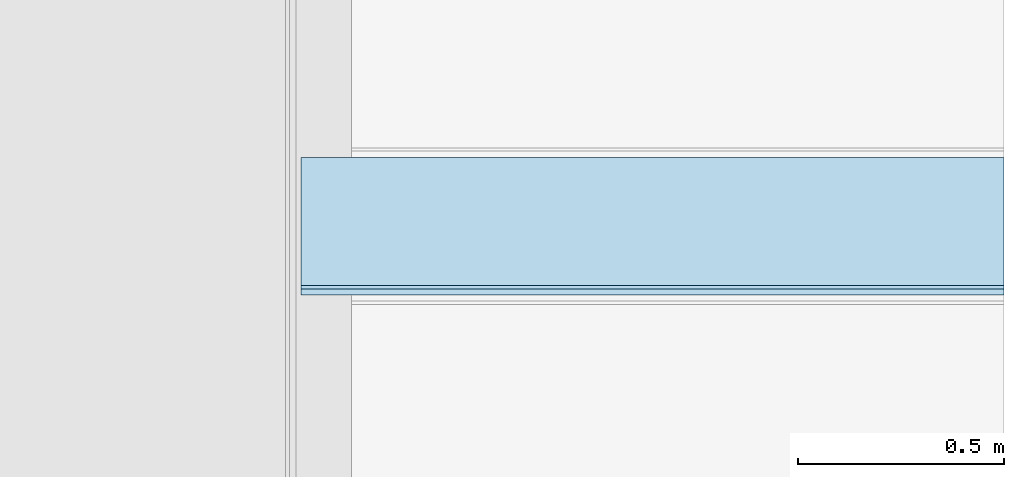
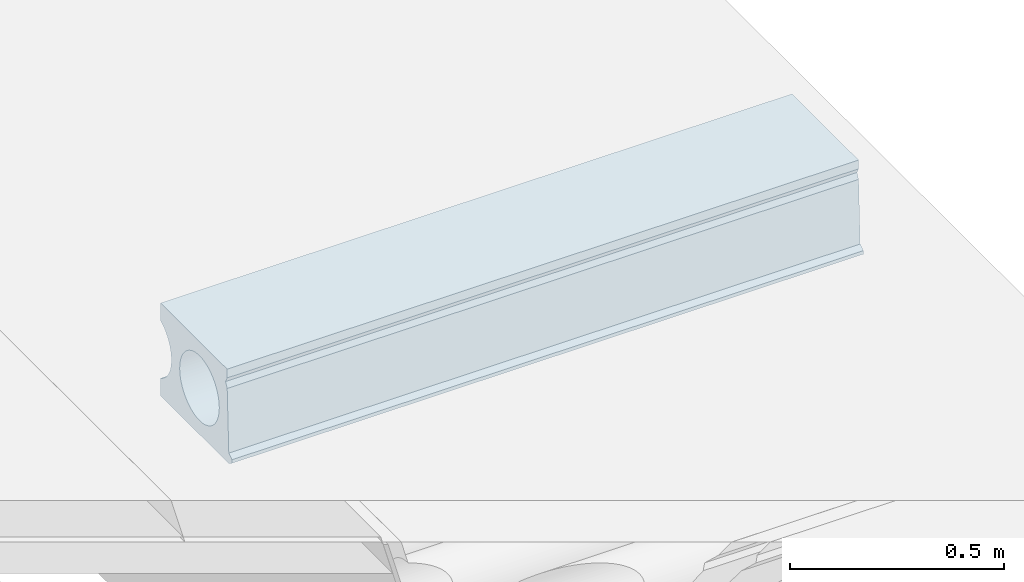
# One storey, part 17 of 21: 1 slab.
"""IFC2X3 building model written with IfcOpenShell, lengths in millimetres."""

from ifc_helpers import new_model, entity, si_unit, converted_unit, derived_unit, direction, frame, origin_with_axes, place, context, subcontext, project, spatial, faceted_brep, type_object, element, save


model = new_model("IFC2X3")

# Units and contexts
model_context = context("Model", 3, precision=0.01, world=frame((0.0, 4.29681676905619e-09, 0.0)), true_north=direction((4.01073788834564e-13, 1.0)))
plan_context = context("Plan", 3, precision=0.01, world=frame((0.0, 4.29681676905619e-09, 0.0)), true_north=direction((4.01073788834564e-13, 1.0)))
body_context = subcontext(model_context, "Body", "Model", "MODEL_VIEW")
ifc_project = project(units=[converted_unit("PLANEANGLEUNIT", "DEGREE", entity("IfcPositiveLengthMeasure", 0.0174532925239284), si_unit("PLANEANGLEUNIT", "RADIAN"), dimensions=[0, 0, 0, 0, 0, 0, 0]), si_unit("AREAUNIT", "SQUARE_METRE"), si_unit("LENGTHUNIT", "METRE", prefix="MILLI"), si_unit("MASSUNIT", "GRAM", prefix="KILO"), si_unit("POWERUNIT", "WATT"), si_unit("PRESSUREUNIT", "PASCAL", prefix="KILO"), si_unit("FORCEUNIT", "NEWTON", prefix="KILO"), si_unit("ELECTRICVOLTAGEUNIT", "VOLT"), si_unit("ELECTRICCURRENTUNIT", "AMPERE"), si_unit("THERMODYNAMICTEMPERATUREUNIT", "DEGREE_CELSIUS"), si_unit("TIMEUNIT", "SECOND"), si_unit("VOLUMEUNIT", "CUBIC_METRE"), derived_unit("LINEARVELOCITYUNIT", [(si_unit("LENGTHUNIT", "METRE"), 1), (si_unit("TIMEUNIT", "SECOND"), -1)]), derived_unit("VOLUMETRICFLOWRATEUNIT", [(si_unit("VOLUMEUNIT", "CUBIC_METRE"), 1), (si_unit("TIMEUNIT", "SECOND"), -1)]), derived_unit("THERMALTRANSMITTANCEUNIT", [(si_unit("POWERUNIT", "WATT"), 1), (si_unit("THERMODYNAMICTEMPERATUREUNIT", "KELVIN"), -1), (si_unit("AREAUNIT", "SQUARE_METRE"), -1)]), derived_unit("SOUNDPRESSUREUNIT", [(si_unit("PRESSUREUNIT", "PASCAL"), 1)])], contexts=[model_context, plan_context])

# Site, building, storey
site_placement = place(None, frame((0.0, -4.29681676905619e-09, 0.0), z_axis=(0.0, 0.0, 1.0), x_axis=(1.0, 0.0, 0.0)))
site = spatial("IfcSite", under=ifc_project, at=site_placement, Name="Gardermoen", CompositionType="ELEMENT")
building_placement = place(site_placement, frame((0.0, 4.29681676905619e-09, 0.0), z_axis=(0.0, 0.0, 1.0), x_axis=(1.0, 0.0, 0.0)))
building = spatial("IfcBuilding", under=site, at=building_placement, Name="TS", CompositionType="ELEMENT")
storey_placement = place(building_placement, origin_with_axes())
storey = spatial("IfcBuildingStorey", under=building, at=storey_placement, Name="F", CompositionType="ELEMENT", Elevation=0.0)

# Slab
slab_type = type_object("IfcSlabType", Name="HD265", PredefinedType="NOTDEFINED")
slab_placement = place(storey_placement, frame((727438.0, 437566.000038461, 210662.5), z_axis=(0.0, 0.0, 1.0), x_axis=(1.0, 0.0, 0.0)))
element("IfcSlab", 1, at=slab_placement, inside=storey, type_object=slab_type, Name="HULLDEKKE", ObjectType="HD265", PredefinedType="FLOOR", context=body_context, shape_type="Brep", body=[
    faceted_brep([(1704.58978646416, -268.025133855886, 81.3513219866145), (1704.58978646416, -266.000607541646, 82.3410525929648), (0.0, -266.000607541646, 82.3410525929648), (0.0, -268.025133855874, 81.3513219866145), (1704.58978646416, -274.59270462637, 77.437899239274), (0.0, -274.592704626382, 77.437899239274), (1704.58978646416, -280.814675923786, 72.9954971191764), (0.0, -280.814675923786, 72.9954971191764), (1704.58978646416, -286.648545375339, 68.0544617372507), (0.0, -286.648545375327, 68.0544617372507), (1704.58978646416, -292.05446173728, 62.6485453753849), (0.0, -292.05446173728, 62.6485453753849), (1704.58978646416, -296.995497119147, 56.8146759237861), (0.0, -296.995497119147, 56.8146759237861), (1704.58978646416, -301.437899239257, 50.5927046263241), (0.0, -301.437899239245, 50.5927046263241), (1704.58978646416, -305.351321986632, 44.0251338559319), (0.0, -305.351321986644, 44.0251338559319), (1704.58978646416, -308.709032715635, 37.1568267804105), (0.0, -308.709032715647, 37.1568267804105), (1704.58978646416, -311.488094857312, 30.0347009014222), (0.0, -311.488094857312, 30.0347009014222), (1704.58978646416, -313.669524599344, 22.7074075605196), (0.0, -313.669524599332, 22.7074075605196), (1704.58978646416, -315.238420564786, 15.2249996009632), (0.0, -315.238420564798, 15.2249996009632), (1704.58978646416, -316.184065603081, 7.63858945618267), (0.0, -316.184065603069, 7.63858945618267), (1704.58978646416, -316.5, 0.0), (0.0, -316.5, 0.0), (1704.58978646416, -316.184065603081, -7.63858945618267), (0.0, -316.184065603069, -7.63858945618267), (1704.58978646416, -315.238420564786, -15.2249996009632), (0.0, -315.238420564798, -15.2249996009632), (1704.58978646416, -313.669524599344, -22.7074075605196), (0.0, -313.669524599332, -22.7074075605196), (1704.58978646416, -311.488094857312, -30.0347009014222), (0.0, -311.488094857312, -30.0347009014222), (1704.58978646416, -308.709032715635, -37.1568267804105), (0.0, -308.709032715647, -37.1568267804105), (1704.58978646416, -305.351321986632, -44.0251338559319), (0.0, -305.351321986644, -44.0251338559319), (1704.58978646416, -301.437899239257, -50.5927046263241), (0.0, -301.437899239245, -50.5927046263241), (1704.58978646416, -296.995497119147, -56.8146759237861), (0.0, -296.995497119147, -56.8146759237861), (1704.58978646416, -292.05446173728, -62.6485453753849), (0.0, -292.05446173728, -62.6485453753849), (1704.58978646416, -286.648545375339, -68.0544617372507), (0.0, -286.648545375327, -68.0544617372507), (1704.58978646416, -280.814675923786, -72.9954971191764), (0.0, -280.814675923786, -72.9954971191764), (1704.58978646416, -274.59270462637, -77.437899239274), (0.0, -274.592704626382, -77.437899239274), (1704.58978646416, -268.025133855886, -81.3513219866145), (0.0, -268.025133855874, -81.3513219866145), (1704.58978646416, -266.000607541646, -82.3410525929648), (0.0, -266.000607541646, -82.3410525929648), (1704.58978646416, -266.000607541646, -132.5), (0.0, -266.000607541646, -132.5), (1704.58978646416, -583.380004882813, -132.5), (0.0, -583.380004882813, -132.5), (1704.58978646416, -600.0, -122.5), (0.0, -600.0, -122.5), (1704.58978646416, -600.0, -112.5), (0.0, -600.0, -112.5), (1704.58978646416, -585.0, -102.5), (0.0, -585.0, -102.5), (1704.58978646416, -577.5, 77.5), (0.0, -577.5, 77.5), (1704.58978646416, -570.0, 92.5), (0.0, -570.0, 92.5), (1704.58978646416, -577.5, 107.5), (0.0, -577.5, 107.5), (1704.58978646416, -577.5, 132.5), (0.0, -577.5, 132.5), (1704.58978646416, -266.000607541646, 132.5), (0.0, -266.000607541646, 132.5), (0.0, -448.0, -92.5), (0.0, -455.638589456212, -92.1840656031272), (0.0, -463.224999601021, -91.2384205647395), (0.0, -470.707407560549, -89.6695245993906), (0.0, -478.03470090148, -87.4880948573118), (0.0, -485.15682678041, -84.7090327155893), (0.0, -492.025133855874, -81.3513219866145), (0.0, -498.592704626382, -77.437899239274), (0.0, -504.814675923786, -72.9954971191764), (0.0, -510.648545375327, -68.0544617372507), (0.0, -516.05446173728, -62.6485453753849), (0.0, -520.995497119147, -56.8146759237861), (0.0, -525.437899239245, -50.5927046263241), (0.0, -529.351321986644, -44.0251338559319), (0.0, -532.709032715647, -37.1568267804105), (0.0, -535.488094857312, -30.0347009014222), (0.0, -537.669524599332, -22.7074075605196), (0.0, -539.238420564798, -15.2249996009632), (0.0, -540.184065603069, -7.63858945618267), (0.0, -540.5, 0.0), (0.0, -540.184065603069, 7.63858945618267), (0.0, -539.238420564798, 15.2249996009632), (0.0, -537.669524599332, 22.7074075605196), (0.0, -535.488094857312, 30.0347009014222), (0.0, -532.709032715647, 37.1568267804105), (0.0, -529.351321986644, 44.0251338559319), (0.0, -525.437899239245, 50.5927046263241), (0.0, -520.995497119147, 56.8146759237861), (0.0, -516.05446173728, 62.6485453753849), (0.0, -510.648545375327, 68.0544617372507), (0.0, -504.814675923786, 72.9954971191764), (0.0, -498.592704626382, 77.437899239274), (0.0, -492.025133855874, 81.3513219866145), (0.0, -485.15682678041, 84.7090327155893), (0.0, -478.03470090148, 87.4880948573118), (0.0, -470.707407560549, 89.6695245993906), (0.0, -463.224999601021, 91.2384205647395), (0.0, -455.638589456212, 92.1840656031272), (0.0, -448.0, 92.5), (0.0, -440.361410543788, 92.1840656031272), (0.0, -432.775000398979, 91.2384205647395), (0.0, -425.292592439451, 89.6695245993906), (0.0, -417.96529909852, 87.4880948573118), (0.0, -410.84317321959, 84.7090327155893), (0.0, -403.974866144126, 81.3513219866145), (0.0, -397.407295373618, 77.437899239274), (0.0, -391.185324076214, 72.9954971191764), (0.0, -385.351454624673, 68.0544617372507), (0.0, -379.94553826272, 62.6485453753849), (0.0, -375.004502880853, 56.8146759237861), (0.0, -370.562100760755, 50.5927046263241), (0.0, -366.648678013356, 44.0251338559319), (0.0, -363.290967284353, 37.1568267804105), (0.0, -360.511905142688, 30.0347009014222), (0.0, -358.330475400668, 22.7074075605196), (0.0, -356.761579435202, 15.2249996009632), (0.0, -355.815934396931, 7.63858945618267), (0.0, -355.5, 0.0), (0.0, -355.815934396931, -7.63858945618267), (0.0, -356.761579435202, -15.2249996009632), (0.0, -358.330475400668, -22.7074075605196), (0.0, -360.511905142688, -30.0347009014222), (0.0, -363.290967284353, -37.1568267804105), (0.0, -366.648678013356, -44.0251338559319), (0.0, -370.562100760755, -50.5927046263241), (0.0, -375.004502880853, -56.8146759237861), (0.0, -379.94553826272, -62.6485453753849), (0.0, -385.351454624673, -68.0544617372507), (0.0, -391.185324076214, -72.9954971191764), (0.0, -397.407295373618, -77.437899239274), (0.0, -403.974866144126, -81.3513219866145), (0.0, -410.84317321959, -84.7090327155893), (0.0, -417.96529909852, -87.4880948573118), (0.0, -425.292592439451, -89.6695245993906), (0.0, -432.775000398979, -91.2384205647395), (0.0, -440.361410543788, -92.1840656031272), (1704.58978646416, -440.361410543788, -92.1840656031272), (1704.58978646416, -448.0, -92.5), (1704.58978646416, -455.638589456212, -92.1840656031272), (1704.58978646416, -463.224999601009, -91.2384205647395), (1704.58978646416, -470.707407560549, -89.6695245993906), (1704.58978646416, -478.034700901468, -87.4880948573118), (1704.58978646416, -485.15682678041, -84.7090327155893), (1704.58978646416, -492.025133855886, -81.3513219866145), (1704.58978646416, -498.59270462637, -77.437899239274), (1704.58978646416, -504.814675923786, -72.9954971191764), (1704.58978646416, -510.648545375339, -68.0544617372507), (1704.58978646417, -516.05446173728, -62.6485453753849), (1704.58978646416, -520.995497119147, -56.8146759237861), (1704.58978646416, -525.437899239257, -50.5927046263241), (1704.58978646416, -529.351321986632, -44.0251338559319), (1704.58978646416, -532.709032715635, -37.1568267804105), (1704.58978646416, -535.488094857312, -30.0347009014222), (1704.58978646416, -537.669524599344, -22.7074075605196), (1704.58978646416, -539.238420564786, -15.2249996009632), (1704.58978646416, -540.184065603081, -7.63858945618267), (1704.58978646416, -540.5, 0.0), (1704.58978646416, -540.184065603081, 7.63858945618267), (1704.58978646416, -539.238420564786, 15.2249996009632), (1704.58978646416, -537.669524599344, 22.7074075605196), (1704.58978646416, -535.488094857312, 30.0347009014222), (1704.58978646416, -532.709032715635, 37.1568267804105), (1704.58978646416, -529.351321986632, 44.0251338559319), (1704.58978646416, -525.437899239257, 50.5927046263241), (1704.58978646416, -520.995497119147, 56.8146759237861), (1704.58978646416, -516.05446173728, 62.6485453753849), (1704.58978646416, -510.648545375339, 68.0544617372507), (1704.58978646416, -504.814675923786, 72.9954971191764), (1704.58978646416, -498.59270462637, 77.437899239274), (1704.58978646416, -492.025133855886, 81.3513219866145), (1704.58978646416, -485.15682678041, 84.7090327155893), (1704.58978646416, -478.034700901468, 87.4880948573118), (1704.58978646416, -470.707407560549, 89.6695245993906), (1704.58978646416, -463.224999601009, 91.2384205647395), (1704.58978646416, -455.638589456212, 92.1840656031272), (1704.58978646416, -448.0, 92.5), (1704.58978646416, -440.361410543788, 92.1840656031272), (1704.58978646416, -432.775000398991, 91.2384205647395), (1704.58978646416, -425.292592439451, 89.6695245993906), (1704.58978646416, -417.965299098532, 87.4880948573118), (1704.58978646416, -410.84317321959, 84.7090327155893), (1704.58978646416, -403.974866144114, 81.3513219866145), (1704.58978646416, -397.40729537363, 77.437899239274), (1704.58978646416, -391.185324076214, 72.9954971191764), (1704.58978646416, -385.351454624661, 68.0544617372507), (1704.58978646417, -379.94553826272, 62.6485453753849), (1704.58978646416, -375.004502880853, 56.8146759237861), (1704.58978646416, -370.562100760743, 50.5927046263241), (1704.58978646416, -366.648678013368, 44.0251338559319), (1704.58978646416, -363.290967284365, 37.1568267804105), (1704.58978646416, -360.511905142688, 30.0347009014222), (1704.58978646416, -358.330475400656, 22.7074075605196), (1704.58978646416, -356.761579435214, 15.2249996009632), (1704.58978646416, -355.815934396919, 7.63858945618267), (1704.58978646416, -355.5, 0.0), (1704.58978646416, -355.815934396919, -7.63858945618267), (1704.58978646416, -356.761579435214, -15.2249996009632), (1704.58978646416, -358.330475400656, -22.7074075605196), (1704.58978646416, -360.511905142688, -30.0347009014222), (1704.58978646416, -363.290967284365, -37.1568267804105), (1704.58978646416, -366.648678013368, -44.0251338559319), (1704.58978646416, -370.562100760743, -50.5927046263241), (1704.58978646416, -375.004502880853, -56.8146759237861), (1704.58978646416, -379.94553826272, -62.6485453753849), (1704.58978646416, -385.351454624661, -68.0544617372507), (1704.58978646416, -391.185324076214, -72.9954971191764), (1704.58978646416, -397.40729537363, -77.437899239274), (1704.58978646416, -403.974866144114, -81.3513219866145), (1704.58978646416, -410.84317321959, -84.7090327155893), (1704.58978646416, -417.965299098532, -87.4880948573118), (1704.58978646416, -425.292592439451, -89.6695245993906), (1704.58978646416, -432.775000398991, -91.2384205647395)], [[[0, 1, 2, 3]], [[4, 0, 3, 5]], [[6, 4, 5, 7]], [[8, 6, 7, 9]], [[10, 8, 9, 11]], [[12, 10, 11, 13]], [[14, 12, 13, 15]], [[16, 14, 15, 17]], [[18, 16, 17, 19]], [[20, 18, 19, 21]], [[22, 20, 21, 23]], [[24, 22, 23, 25]], [[26, 24, 25, 27]], [[28, 26, 27, 29]], [[30, 28, 29, 31]], [[32, 30, 31, 33]], [[34, 32, 33, 35]], [[36, 34, 35, 37]], [[38, 36, 37, 39]], [[40, 38, 39, 41]], [[42, 40, 41, 43]], [[44, 42, 43, 45]], [[46, 44, 45, 47]], [[48, 46, 47, 49]], [[50, 48, 49, 51]], [[52, 50, 51, 53]], [[54, 52, 53, 55]], [[56, 54, 55, 57]], [[58, 56, 57, 59]], [[60, 58, 59, 61]], [[62, 60, 61, 63]], [[64, 62, 63, 65]], [[66, 64, 65, 67]], [[68, 66, 67, 69]], [[70, 68, 69, 71]], [[72, 70, 71, 73]], [[74, 72, 73, 75]], [[76, 74, 75, 77]], [[2, 77, 75, 73, 71, 69, 67, 65, 63, 61, 59, 57, 55, 53, 51, 49, 47, 45, 43, 41, 39, 37, 35, 33, 31, 29, 27, 25, 23, 21, 19, 17, 15, 13, 11, 9, 7, 5, 3], [78, 79, 80, 81, 82, 83, 84, 85, 86, 87, 88, 89, 90, 91, 92, 93, 94, 95, 96, 97, 98, 99, 100, 101, 102, 103, 104, 105, 106, 107, 108, 109, 110, 111, 112, 113, 114, 115, 116, 117, 118, 119, 120, 121, 122, 123, 124, 125, 126, 127, 128, 129, 130, 131, 132, 133, 134, 135, 136, 137, 138, 139, 140, 141, 142, 143, 144, 145, 146, 147, 148, 149, 150, 151, 152, 153]], [[154, 155, 78, 153]], [[155, 156, 79, 78]], [[156, 157, 80, 79]], [[157, 158, 81, 80]], [[158, 159, 82, 81]], [[159, 160, 83, 82]], [[160, 161, 84, 83]], [[161, 162, 85, 84]], [[162, 163, 86, 85]], [[163, 164, 87, 86]], [[164, 165, 88, 87]], [[165, 166, 89, 88]], [[166, 167, 90, 89]], [[167, 168, 91, 90]], [[168, 169, 92, 91]], [[169, 170, 93, 92]], [[170, 171, 94, 93]], [[171, 172, 95, 94]], [[172, 173, 96, 95]], [[173, 174, 97, 96]], [[174, 175, 98, 97]], [[175, 176, 99, 98]], [[176, 177, 100, 99]], [[177, 178, 101, 100]], [[178, 179, 102, 101]], [[179, 180, 103, 102]], [[180, 181, 104, 103]], [[181, 182, 105, 104]], [[182, 183, 106, 105]], [[183, 184, 107, 106]], [[184, 185, 108, 107]], [[185, 186, 109, 108]], [[186, 187, 110, 109]], [[187, 188, 111, 110]], [[188, 189, 112, 111]], [[189, 190, 113, 112]], [[190, 191, 114, 113]], [[191, 192, 115, 114]], [[192, 193, 116, 115]], [[193, 194, 117, 116]], [[194, 195, 118, 117]], [[195, 196, 119, 118]], [[196, 197, 120, 119]], [[197, 198, 121, 120]], [[198, 199, 122, 121]], [[199, 200, 123, 122]], [[200, 201, 124, 123]], [[201, 202, 125, 124]], [[202, 203, 126, 125]], [[203, 204, 127, 126]], [[204, 205, 128, 127]], [[205, 206, 129, 128]], [[206, 207, 130, 129]], [[207, 208, 131, 130]], [[208, 209, 132, 131]], [[209, 210, 133, 132]], [[210, 211, 134, 133]], [[211, 212, 135, 134]], [[212, 213, 136, 135]], [[213, 214, 137, 136]], [[214, 215, 138, 137]], [[215, 216, 139, 138]], [[216, 217, 140, 139]], [[217, 218, 141, 140]], [[218, 219, 142, 141]], [[219, 220, 143, 142]], [[220, 221, 144, 143]], [[221, 222, 145, 144]], [[222, 223, 146, 145]], [[223, 224, 147, 146]], [[224, 225, 148, 147]], [[225, 226, 149, 148]], [[226, 227, 150, 149]], [[227, 228, 151, 150]], [[228, 229, 152, 151]], [[229, 154, 153, 152]], [[1, 76, 77, 2]], [[4, 6, 8, 10, 12, 14, 16, 18, 20, 22, 24, 26, 28, 30, 32, 34, 36, 38, 40, 42, 44, 46, 48, 50, 52, 54, 56, 58, 60, 62, 64, 66, 68, 70, 72, 74, 76, 1, 0], [229, 228, 227, 226, 225, 224, 223, 222, 221, 220, 219, 218, 217, 216, 215, 214, 213, 212, 211, 210, 209, 208, 207, 206, 205, 204, 203, 202, 201, 200, 199, 198, 197, 196, 195, 194, 193, 192, 191, 190, 189, 188, 187, 186, 185, 184, 183, 182, 181, 180, 179, 178, 177, 176, 175, 174, 173, 172, 171, 170, 169, 168, 167, 166, 165, 164, 163, 162, 161, 160, 159, 158, 157, 156, 155, 154]]], orient=[[False], [False], [False], [False], [False], [False], [False], [False], [False], [False], [False], [False], [False], [False], [False], [False], [False], [False], [False], [False], [False], [False], [False], [False], [False], [False], [False], [False], [False], [False], [False], [False], [False], [False], [False], [False], [False], [False], [False, False], [False], [False], [False], [False], [False], [False], [False], [False], [False], [False], [False], [False], [False], [False], [False], [False], [False], [False], [False], [False], [False], [False], [False], [False], [False], [False], [False], [False], [False], [False], [False], [False], [False], [False], [False], [False], [False], [False], [False], [False], [False], [False], [False], [False], [False], [False], [False], [False], [False], [False], [False], [False], [False], [False], [False], [False], [False], [False], [False], [False], [False], [False], [False], [False], [False], [False], [False], [False], [False], [False], [False], [False], [False], [False], [False], [False], [False], [False, False]]),
])

save(model, "model.ifc")
